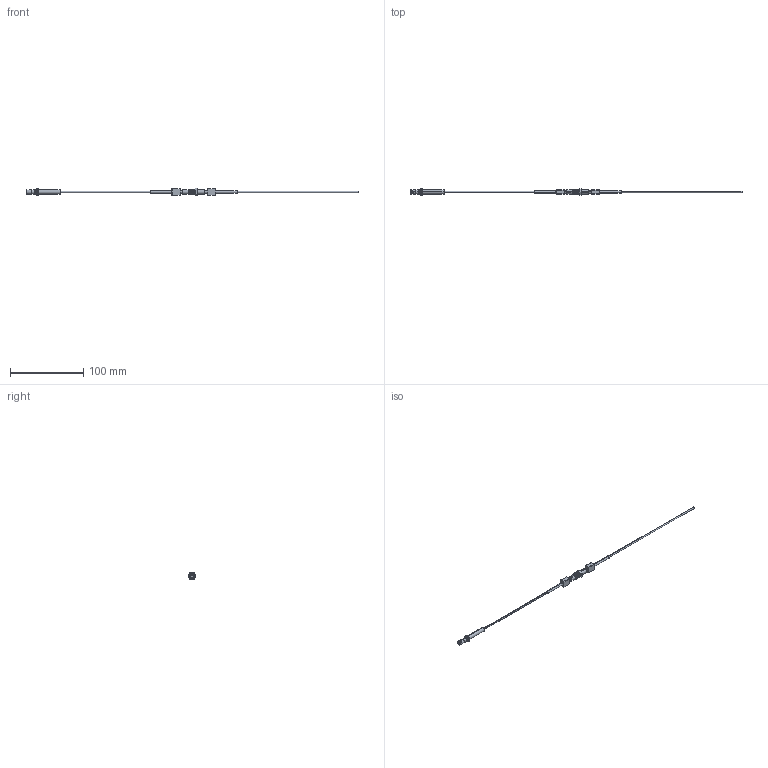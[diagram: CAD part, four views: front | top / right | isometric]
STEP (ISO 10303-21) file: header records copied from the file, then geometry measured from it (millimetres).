
FILE_DESCRIPTION (( 'STEP AP214' ), '1' );
FILE_NAME ('WEB-PRB-910-NC-HFBR-TP2.STEP', '2019-11-04T20:56:30', ( '' ), ( '' ), 'SwSTEP 2.0', 'SolidWorks 2017', '' );
FILE_SCHEMA (( 'AUTOMOTIVE_DESIGN' ));
Length unit declared in the file: millimetre
Products named in the file (1): WEB-PRB-910-NC-HFBR-TP2
Bounding box: 452.93 x 9.1 x 10.51 mm (x, y, z)
Volume: 5321.7 mm3; surface area: 8394.4 mm2
Topology: 2 solids, 5 shells, 291 faces, 735 edges, 433 vertices
Faces by surface type: cylinder 115, plane 61, bspline 52, cone 37, sphere 18, torus 8
Entity records: 23628 total; most frequent: CARTESIAN_POINT 17377, ORIENTED_EDGE 1422, DIRECTION 1172, EDGE_CURVE 711, AXIS2_PLACEMENT_3D 456, VERTEX_POINT 433, EDGE_LOOP 308, FACE_OUTER_BOUND 291
